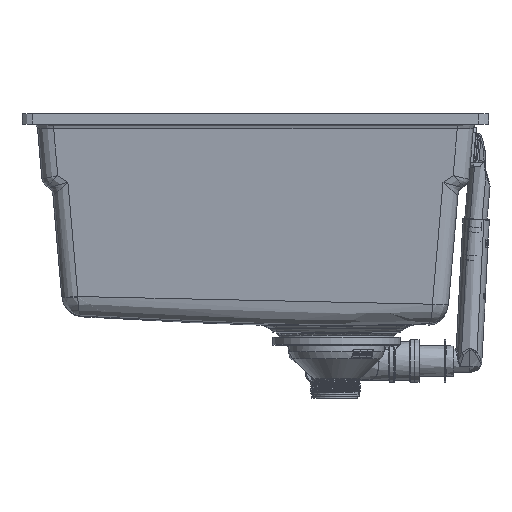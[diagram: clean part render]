
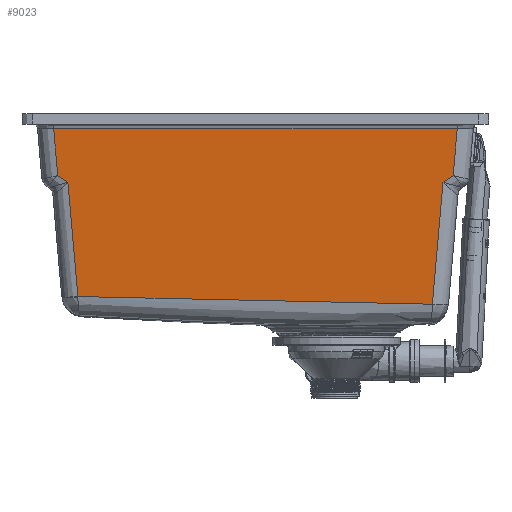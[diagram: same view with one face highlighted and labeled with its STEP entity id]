
A CAD part, front view. The second image highlights one B-rep face of the part: STEP entity #9023.
In plain terms, the highlighted planar face has unit normal (0, -0.996, -0.087).
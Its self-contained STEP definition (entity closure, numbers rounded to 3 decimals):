
#9023=ADVANCED_FACE('',(#12564),#61269,.T.);
#12564=FACE_OUTER_BOUND('',#16143,.T.);
#16143=EDGE_LOOP('',(#26673,#26674,#26675,#26676,#26677,#26678,#26679,#26680));
#26673=ORIENTED_EDGE('',*,*,#41955,.T.);
#26674=ORIENTED_EDGE('',*,*,#41924,.F.);
#26675=ORIENTED_EDGE('',*,*,#41923,.F.);
#26676=ORIENTED_EDGE('',*,*,#41951,.F.);
#26677=ORIENTED_EDGE('',*,*,#41914,.F.);
#26678=ORIENTED_EDGE('',*,*,#41913,.F.);
#26679=ORIENTED_EDGE('',*,*,#41947,.F.);
#26680=ORIENTED_EDGE('',*,*,#41952,.T.);
#41913=EDGE_CURVE('',#56756,#56730,#50360,.T.);
#41914=EDGE_CURVE('',#56730,#56734,#50361,.T.);
#41923=EDGE_CURVE('',#56739,#56742,#50366,.T.);
#41924=EDGE_CURVE('',#56742,#56757,#50367,.T.);
#41947=EDGE_CURVE('',#56773,#56756,#50382,.T.);
#41951=EDGE_CURVE('',#56734,#56739,#50384,.T.);
#41952=EDGE_CURVE('',#56773,#56774,#50385,.T.);
#41955=EDGE_CURVE('',#56774,#56757,#50387,.T.);
#50360=B_SPLINE_CURVE_WITH_KNOTS('',1,(#122665,#122666),.UNSPECIFIED.,.F.,
 .F.,(2,2),(0.,11.937),.UNSPECIFIED.);
#50361=B_SPLINE_CURVE_WITH_KNOTS('',1,(#122667,#122668),.UNSPECIFIED.,.F.,
 .F.,(2,2),(0.,121.248),.UNSPECIFIED.);
#50366=B_SPLINE_CURVE_WITH_KNOTS('',1,(#122750,#122751),.UNSPECIFIED.,.F.,
 .F.,(2,2),(0.,113.634),.UNSPECIFIED.);
#50367=B_SPLINE_CURVE_WITH_KNOTS('',1,(#122752,#122753),.UNSPECIFIED.,.F.,
 .F.,(2,2),(0.,11.937),.UNSPECIFIED.);
#50382=B_SPLINE_CURVE_WITH_KNOTS('',1,(#122835,#122836),.UNSPECIFIED.,.F.,
 .F.,(2,2),(0.,46.451),.UNSPECIFIED.);
#50384=B_SPLINE_CURVE_WITH_KNOTS('',3,(#122847,#122848,#122849,#122850,
#122851,#122852,#122853,#122854,#122855,#122856,#122857,#122858,#122859,
#122860,#122861,#122862,#122863,#122864,#122865,#122866,#122867,#122868,
#122869,#122870,#122871,#122872,#122873,#122874,#122875,#122876,#122877,
#122878,#122879,#122880),.UNSPECIFIED.,.F.,.F.,(4,3,3,3,3,3,3,3,3,3,3,4),
(-349.411,-319.048,-290.152,-263.151,
-262.07,-251.131,-218.941,-174.733,-174.712,
-87.356,-86.318,0.),.UNSPECIFIED.);
#50385=B_SPLINE_CURVE_WITH_KNOTS('',1,(#122881,#122882),.UNSPECIFIED.,.F.,
 .F.,(2,2),(0.,397.619),.UNSPECIFIED.);
#50387=B_SPLINE_CURVE_WITH_KNOTS('',1,(#122888,#122889),.UNSPECIFIED.,.F.,
 .F.,(2,2),(-46.451,0.),.UNSPECIFIED.);
#56730=VERTEX_POINT('',#107097);
#56734=VERTEX_POINT('',#107101);
#56739=VERTEX_POINT('',#107106);
#56742=VERTEX_POINT('',#107109);
#56756=VERTEX_POINT('',#107123);
#56757=VERTEX_POINT('',#107124);
#56773=VERTEX_POINT('',#107140);
#56774=VERTEX_POINT('',#107141);
#61269=PLANE('',#64976);
#64976=AXIS2_PLACEMENT_3D('',#106537,#71239,$);
#71239=DIRECTION('',(0.,-0.996,-0.087));
#106537=CARTESIAN_POINT('',(-392.083,-481.17,236.477));
#107097=CARTESIAN_POINT('',(31.385,-475.024,166.228));
#107101=CARTESIAN_POINT('',(20.858,-464.496,45.898));
#107106=CARTESIAN_POINT('',(-328.301,-465.157,53.454));
#107109=CARTESIAN_POINT('',(-338.168,-475.024,166.228));
#107123=CARTESIAN_POINT('',(41.385,-475.592,172.722));
#107124=CARTESIAN_POINT('',(-348.168,-475.592,172.722));
#107140=CARTESIAN_POINT('',(45.418,-479.625,218.822));
#107141=CARTESIAN_POINT('',(-352.201,-479.625,218.822));
#122665=CARTESIAN_POINT('',(41.385,-475.592,172.722));
#122666=CARTESIAN_POINT('',(31.385,-475.024,166.228));
#122667=CARTESIAN_POINT('',(31.385,-475.024,166.228));
#122668=CARTESIAN_POINT('',(20.858,-464.496,45.898));
#122750=CARTESIAN_POINT('',(-328.301,-465.157,53.454));
#122751=CARTESIAN_POINT('',(-338.168,-475.024,166.228));
#122752=CARTESIAN_POINT('',(-338.168,-475.024,166.228));
#122753=CARTESIAN_POINT('',(-348.168,-475.592,172.722));
#122835=CARTESIAN_POINT('',(45.418,-479.625,218.822));
#122836=CARTESIAN_POINT('',(41.385,-475.592,172.722));
#122847=CARTESIAN_POINT('',(20.858,-464.496,45.898));
#122848=CARTESIAN_POINT('',(10.744,-464.461,45.489));
#122849=CARTESIAN_POINT('',(0.631,-464.427,45.102));
#122850=CARTESIAN_POINT('',(-9.484,-464.397,44.765));
#122851=CARTESIAN_POINT('',(-19.111,-464.369,44.445));
#122852=CARTESIAN_POINT('',(-28.739,-464.345,44.171));
#122853=CARTESIAN_POINT('',(-38.369,-464.327,43.966));
#122854=CARTESIAN_POINT('',(-47.366,-464.311,43.775));
#122855=CARTESIAN_POINT('',(-56.366,-464.299,43.646));
#122856=CARTESIAN_POINT('',(-65.367,-464.295,43.597));
#122857=CARTESIAN_POINT('',(-65.727,-464.295,43.595));
#122858=CARTESIAN_POINT('',(-66.088,-464.295,43.594));
#122859=CARTESIAN_POINT('',(-66.448,-464.295,43.592));
#122860=CARTESIAN_POINT('',(-70.094,-464.293,43.575));
#122861=CARTESIAN_POINT('',(-73.74,-464.293,43.572));
#122862=CARTESIAN_POINT('',(-77.387,-464.294,43.583));
#122863=CARTESIAN_POINT('',(-88.116,-464.296,43.613));
#122864=CARTESIAN_POINT('',(-98.846,-464.309,43.757));
#122865=CARTESIAN_POINT('',(-109.573,-464.33,43.994));
#122866=CARTESIAN_POINT('',(-124.306,-464.358,44.318));
#122867=CARTESIAN_POINT('',(-139.033,-464.401,44.803));
#122868=CARTESIAN_POINT('',(-153.759,-464.449,45.356));
#122869=CARTESIAN_POINT('',(-153.766,-464.449,45.356));
#122870=CARTESIAN_POINT('',(-153.773,-464.449,45.356));
#122871=CARTESIAN_POINT('',(-153.78,-464.449,45.357));
#122872=CARTESIAN_POINT('',(-182.877,-464.545,46.45));
#122873=CARTESIAN_POINT('',(-211.966,-464.662,47.793));
#122874=CARTESIAN_POINT('',(-241.051,-464.783,49.175));
#122875=CARTESIAN_POINT('',(-241.397,-464.785,49.192));
#122876=CARTESIAN_POINT('',(-241.742,-464.786,49.208));
#122877=CARTESIAN_POINT('',(-242.088,-464.787,49.225));
#122878=CARTESIAN_POINT('',(-270.828,-464.907,50.591));
#122879=CARTESIAN_POINT('',(-299.565,-465.031,52.014));
#122880=CARTESIAN_POINT('',(-328.301,-465.157,53.454));
#122881=CARTESIAN_POINT('',(45.418,-479.625,218.822));
#122882=CARTESIAN_POINT('',(-352.201,-479.625,218.822));
#122888=CARTESIAN_POINT('',(-352.201,-479.625,218.822));
#122889=CARTESIAN_POINT('',(-348.168,-475.592,172.722));
